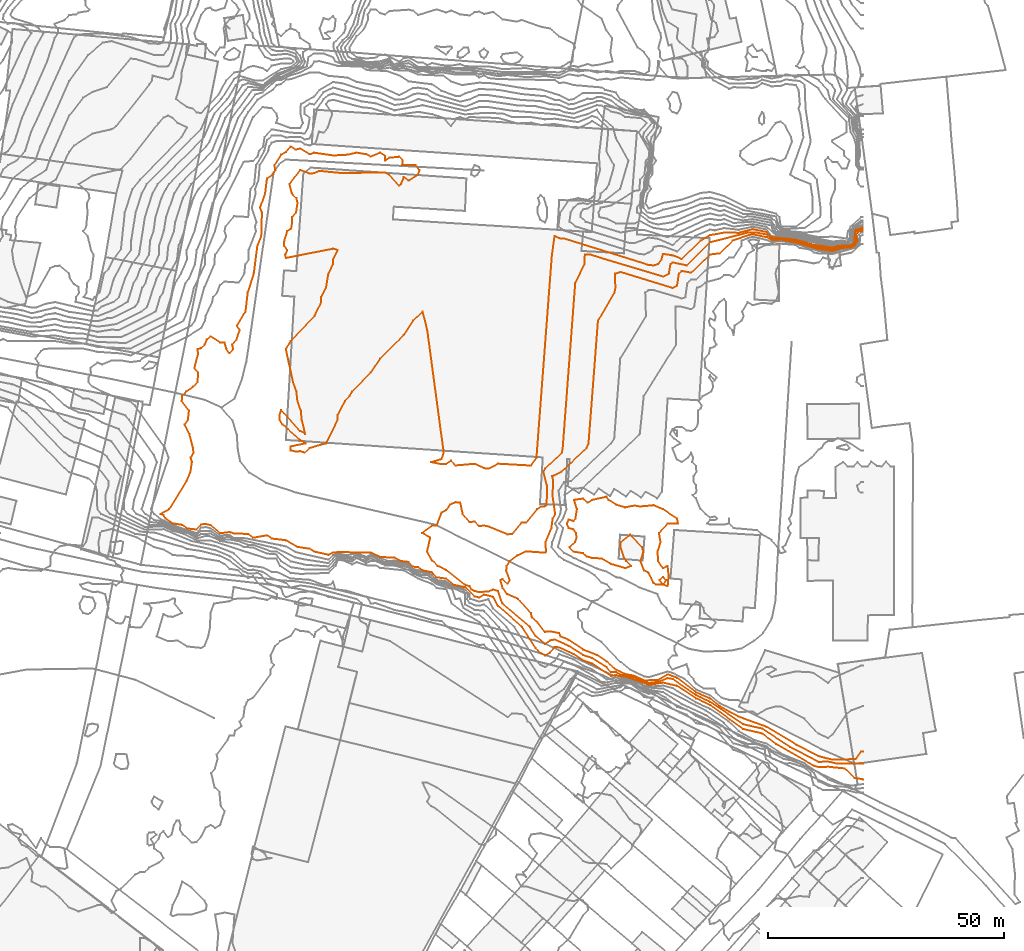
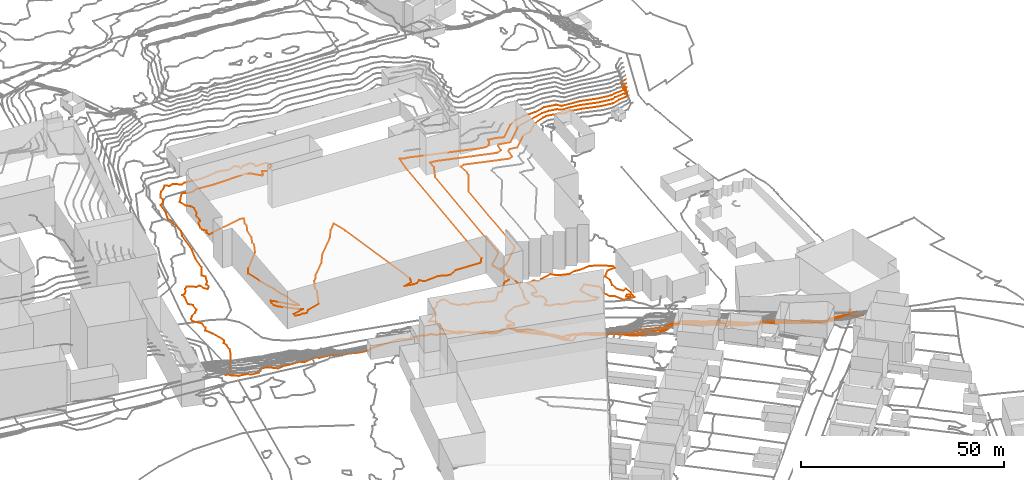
# Not in any storey, part 265 of 419: 4 proxies.
"""IFC2X3 model written with IfcOpenShell, lengths in metres."""

from ifc_helpers import new_model, entity, si_unit, frame, origin_with_axes, place, context, subcontext, project, element, save


model = new_model("IFC2X3")

# Units and contexts
model_context = context("Model", 3, precision=1e-05, world=origin_with_axes())
body_context = subcontext(model_context, "Body", "Model", "MODEL_VIEW")
ifc_project = project(units=[si_unit("AREAUNIT", "SQUARE_METRE"), si_unit("LENGTHUNIT", "METRE")], contexts=[model_context])

# Proxies
proxy_1_placement = place(None, frame((913.7110576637, 367.8976909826, 68.0), z_axis=(0.0, 0.0, 1.0), x_axis=(1.0, 0.0, 0.0)))
element("IfcBuildingElementProxy", 1, at=proxy_1_placement, Name="Contour 68.0 m", ObjectType="NOTDEFINED", context=body_context, shape_type="GeometricCurveSet", body=[
    entity("IfcGeometricCurveSet", [entity("IfcPolyline", [entity("IfcCartesianPoint", [21.3809627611, -13.3334181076, 0.0]), entity("IfcCartesianPoint", [21.5809932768, -11.0, 0.0]), entity("IfcCartesianPoint", [21.3809627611, -9.0000999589, 0.0]), entity("IfcCartesianPoint", [20.3809627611, -9.5000499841, 0.0]), entity("IfcCartesianPoint", [19.3809427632, -8.0, 0.0]), entity("IfcCartesianPoint", [19.2380744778, -6.0, 0.0]), entity("IfcCartesianPoint", [19.8809544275, -4.0, 0.0]), entity("IfcCartesianPoint", [19.5476506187, -2.0, 0.0]), entity("IfcCartesianPoint", [21.3809627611, 1.99983e-05, 0.0]), entity("IfcCartesianPoint", [23.5476506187, 0.0, 0.0]), entity("IfcCartesianPoint", [23.3809377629, 1.0, 0.0]), entity("IfcCartesianPoint", [20.3809484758, 3.0, 0.0]), entity("IfcCartesianPoint", [18.3809627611, 3.8461764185, 0.0]), entity("IfcCartesianPoint", [15.3809627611, 3.5833174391, 0.0]), entity("IfcCartesianPoint", [14.3809627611, 3.8000305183, 0.0]), entity("IfcCartesianPoint", [12.3809627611, 3.4117673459, 0.0]), entity("IfcCartesianPoint", [10.3809294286, 4.0, 0.0]), entity("IfcCartesianPoint", [8.8809377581, 5.0, 0.0]), entity("IfcCartesianPoint", [8.3809627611, 5.6665818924, 0.0]), entity("IfcCartesianPoint", [5.3809877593, 5.0, 0.0]), entity("IfcCartesianPoint", [4.3809627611, 4.39996948, 0.0]), entity("IfcCartesianPoint", [3.3809627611, 5.285667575, 0.0]), entity("IfcCartesianPoint", [1.5476506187, 5.0, 0.0]), entity("IfcCartesianPoint", [2.1309866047, 3.0, 0.0]), entity("IfcCartesianPoint", [1.792730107, 1.0, 0.0]), entity("IfcCartesianPoint", [1.3809627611, 0.4999928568, 0.0]), entity("IfcCartesianPoint", [0.3809627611, 0.8000305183, 0.0]), entity("IfcCartesianPoint", [0.0, 0.0, 0.0]), entity("IfcCartesianPoint", [0.3809627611, -0.9999875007, 0.0]), entity("IfcCartesianPoint", [1.3809627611, -1.25, 0.0]), entity("IfcCartesianPoint", [1.9434538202, -2.0, 0.0]), entity("IfcCartesianPoint", [2.0476124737, -3.0, 0.0]), entity("IfcCartesianPoint", [1.7142537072, -4.0, 0.0]), entity("IfcCartesianPoint", [0.5476506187, -5.0, 0.0]), entity("IfcCartesianPoint", [1.380979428, -6.0, 0.0]), entity("IfcCartesianPoint", [3.3809627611, -6.3333502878, 0.0]), entity("IfcCartesianPoint", [4.1501980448, -7.0, 0.0]), entity("IfcCartesianPoint", [5.3809627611, -7.3333502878, 0.0]), entity("IfcCartesianPoint", [7.3809627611, -7.4444350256, 0.0]), entity("IfcCartesianPoint", [9.3809627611, -8.6250238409, 0.0]), entity("IfcCartesianPoint", [12.3809627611, -9.4999900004, 0.0]), entity("IfcCartesianPoint", [13.6310104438, -9.0, 0.0]), entity("IfcCartesianPoint", [12.5809932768, -8.0, 0.0]), entity("IfcCartesianPoint", [12.047671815, -7.0, 0.0]), entity("IfcCartesianPoint", [11.3809377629, -5.0, 0.0]), entity("IfcCartesianPoint", [11.3809294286, -4.0, 0.0]), entity("IfcCartesianPoint", [13.3809627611, -2.3749761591, 0.0]), entity("IfcCartesianPoint", [15.9809475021, -5.0, 0.0]), entity("IfcCartesianPoint", [16.2271391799, -6.0, 0.0]), entity("IfcCartesianPoint", [15.6309627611, -8.0, 0.0]), entity("IfcCartesianPoint", [16.3809627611, -9.9999499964, 0.0]), entity("IfcCartesianPoint", [17.3809627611, -10.4999749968, 0.0]), entity("IfcCartesianPoint", [18.3809627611, -12.6665818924, 0.0]), entity("IfcCartesianPoint", [18.8810127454, -13.0, 0.0]), entity("IfcCartesianPoint", [20.3808628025, -13.0, 0.0]), entity("IfcCartesianPoint", [19.7143808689, -12.0, 0.0]), entity("IfcCartesianPoint", [20.3809627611, -11.3334181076, 0.0]), entity("IfcCartesianPoint", [21.0475446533, -12.0, 0.0]), entity("IfcCartesianPoint", [20.3810627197, -13.0, 0.0]), entity("IfcCartesianPoint", [21.3809627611, -13.3334181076, 0.0])])]),
])
proxy_2_placement = place(None, frame((899.5920329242, 355.8976909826, 71.0), z_axis=(0.0, 0.0, 1.0), x_axis=(1.0, 0.0, 0.0)))
element("IfcBuildingElementProxy", 2, at=proxy_2_placement, Name="Contour 71.0 m", ObjectType="NOTDEFINED", context=body_context, shape_type="GeometricCurveSet", body=[
    entity("IfcGeometricCurveSet", [entity("IfcPolyline", [entity("IfcCartesianPoint", [76.9999875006, 74.0961547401, 0.0]), entity("IfcCartesianPoint", [76.2391156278, 74.0, 0.0]), entity("IfcCartesianPoint", [75.4999875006, 73.4097211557, 0.0]), entity("IfcCartesianPoint", [75.7528950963, 72.0, 0.0]), entity("IfcCartesianPoint", [75.1992624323, 71.0, 0.0]), entity("IfcCartesianPoint", [74.4999875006, 70.5822512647, 0.0]), entity("IfcCartesianPoint", [72.4999875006, 70.4490862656, 0.0]), entity("IfcCartesianPoint", [70.4999875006, 69.8289480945, 0.0]), entity("IfcCartesianPoint", [67.4999875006, 70.2078858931, 0.0]), entity("IfcCartesianPoint", [62.4999875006, 71.6601123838, 0.0]), entity("IfcCartesianPoint", [59.4999875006, 72.1995194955, 0.0]), entity("IfcCartesianPoint", [57.4999875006, 72.1189022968, 0.0]), entity("IfcCartesianPoint", [56.4999875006, 72.7283235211, 0.0]), entity("IfcCartesianPoint", [53.4999875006, 73.3387080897, 0.0]), entity("IfcCartesianPoint", [52.4999875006, 73.1329496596, 0.0]), entity("IfcCartesianPoint", [49.3205008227, 72.0, 0.0]), entity("IfcCartesianPoint", [46.4999875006, 69.3157926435, 0.0]), entity("IfcCartesianPoint", [44.4999875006, 69.0555473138, 0.0]), entity("IfcCartesianPoint", [40.4999875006, 65.1891869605, 0.0]), entity("IfcCartesianPoint", [38.4999875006, 65.5740685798, 0.0]), entity("IfcCartesianPoint", [37.8799923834, 65.0, 0.0]), entity("IfcCartesianPoint", [37.4999875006, 62.4499885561, 0.0]), entity("IfcCartesianPoint", [36.4999875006, 61.949154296, 0.0]), entity("IfcCartesianPoint", [25.4999875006, 65.333337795, 0.0]), entity("IfcCartesianPoint", [24.312490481, 65.0, 0.0]), entity("IfcCartesianPoint", [24.4285433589, 62.0, 0.0]), entity("IfcCartesianPoint", [24.1999951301, 61.0, 0.0]), entity("IfcCartesianPoint", [20.7142654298, 55.0, 0.0]), entity("IfcCartesianPoint", [18.7105159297, 29.0, 0.0]), entity("IfcCartesianPoint", [18.2916462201, 28.0, 0.0]), entity("IfcCartesianPoint", [12.9799984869, 23.0, 0.0]), entity("IfcCartesianPoint", [11.0097934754, 22.0, 0.0]), entity("IfcCartesianPoint", [11.2360956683, 21.0, 0.0]), entity("IfcCartesianPoint", [11.05843189, 18.0, 0.0]), entity("IfcCartesianPoint", [11.6382832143, 14.0, 0.0]), entity("IfcCartesianPoint", [11.1063685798, 13.0, 0.0]), entity("IfcCartesianPoint", [10.8157764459, 11.0, 0.0]), entity("IfcCartesianPoint", [9.5434638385, 8.0, 0.0]), entity("IfcCartesianPoint", [9.7105159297, 6.0, 0.0]), entity("IfcCartesianPoint", [9.4999875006, 5.7777730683, 0.0]), entity("IfcCartesianPoint", [5.4999875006, 6.0714441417, 0.0]), entity("IfcCartesianPoint", [3.4999875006, 5.2000305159, 0.0]), entity("IfcCartesianPoint", [1.9285433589, 4.0, 0.0]), entity("IfcCartesianPoint", [1.3570992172, 3.0, 0.0]), entity("IfcCartesianPoint", [1.2500113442, 2.0, 0.0]), entity("IfcCartesianPoint", [1.9999937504, 0.0, 0.0]), entity("IfcCartesianPoint", [1.4999875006, -0.8000305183, 0.0]), entity("IfcCartesianPoint", [0.4999875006, 0.2222269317, 0.0]), entity("IfcCartesianPoint", [0.0, 0.0, 0.0]), entity("IfcCartesianPoint", [0.4999875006, -1.6665818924, 0.0]), entity("IfcCartesianPoint", [1.4411534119, -3.0, 0.0]), entity("IfcCartesianPoint", [3.7631580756, -4.0, 0.0]), entity("IfcCartesianPoint", [6.4999922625, -7.0, 0.0]), entity("IfcCartesianPoint", [6.6874845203, -8.0, 0.0]), entity("IfcCartesianPoint", [7.9285433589, -9.0, 0.0]), entity("IfcCartesianPoint", [9.4642654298, -11.0, 0.0]), entity("IfcCartesianPoint", [10.4999875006, -10.9000152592, 0.0]), entity("IfcCartesianPoint", [12.4999875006, -11.2666700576, 0.0]), entity("IfcCartesianPoint", [12.7972842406, -12.0, 0.0]), entity("IfcCartesianPoint", [14.4999875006, -12.7017574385, 0.0]), entity("IfcCartesianPoint", [17.4999875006, -14.736108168, 0.0]), entity("IfcCartesianPoint", [20.4999875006, -15.9444432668, 0.0]), entity("IfcCartesianPoint", [22.4999875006, -17.2682942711, 0.0]), entity("IfcCartesianPoint", [24.4374860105, -19.0, 0.0]), entity("IfcCartesianPoint", [26.5795328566, -20.0, 0.0]), entity("IfcCartesianPoint", [28.4999875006, -20.3508070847, 0.0]), entity("IfcCartesianPoint", [30.4999875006, -21.3258430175, 0.0]), entity("IfcCartesianPoint", [33.4999875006, -21.189872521, 0.0]), entity("IfcCartesianPoint", [35.4999875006, -20.0325209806, 0.0]), entity("IfcCartesianPoint", [37.4999875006, -20.7575750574, 0.0]), entity("IfcCartesianPoint", [41.4999875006, -23.8457162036, 0.0]), entity("IfcCartesianPoint", [44.4999875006, -25.1438827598, 0.0]), entity("IfcCartesianPoint", [46.4999875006, -26.778482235, 0.0]), entity("IfcCartesianPoint", [48.4999875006, -27.9290320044, 0.0]), entity("IfcCartesianPoint", [50.4999875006, -28.990474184, 0.0]), entity("IfcCartesianPoint", [56.4999875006, -31.1619037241, 0.0]), entity("IfcCartesianPoint", [62.8953317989, -35.0, 0.0]), entity("IfcCartesianPoint", [67.4999875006, -37.3928574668, 0.0]), entity("IfcCartesianPoint", [70.4999875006, -38.1515150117, 0.0]), entity("IfcCartesianPoint", [75.4090594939, -38.0, 0.0]), entity("IfcCartesianPoint", [76.4999875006, -36.3749761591, 0.0]), entity("IfcCartesianPoint", [76.9999875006, -36.3749761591, 0.0])])]),
])
proxy_3_placement = place(None, frame((882.9491321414, 365.8976909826, 72.0), z_axis=(0.0, 0.0, 1.0), x_axis=(1.0, 0.0, 0.0)))
element("IfcBuildingElementProxy", 3, at=proxy_3_placement, Name="Contour 72.0 m", ObjectType="NOTDEFINED", context=body_context, shape_type="GeometricCurveSet", body=[
    entity("IfcGeometricCurveSet", [entity("IfcPolyline", [entity("IfcCartesianPoint", [93.6428882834, 64.4166672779, 0.0]), entity("IfcCartesianPoint", [92.1089512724, 64.0, 0.0]), entity("IfcCartesianPoint", [91.879643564, 63.0, 0.0]), entity("IfcCartesianPoint", [92.1066773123, 62.0, 0.0]), entity("IfcCartesianPoint", [91.4798446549, 61.0, 0.0]), entity("IfcCartesianPoint", [88.1428882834, 60.5623094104, 0.0]), entity("IfcCartesianPoint", [87.1428882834, 60.1584166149, 0.0]), entity("IfcCartesianPoint", [83.1428882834, 60.7792208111, 0.0]), entity("IfcCartesianPoint", [79.1428882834, 61.941011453, 0.0]), entity("IfcCartesianPoint", [76.1428882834, 62.4399038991, 0.0]), entity("IfcCartesianPoint", [74.1428882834, 62.423780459, 0.0]), entity("IfcCartesianPoint", [73.1428882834, 63.2896165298, 0.0]), entity("IfcCartesianPoint", [71.1428882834, 63.6844931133, 0.0]), entity("IfcCartesianPoint", [69.1428882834, 63.7109832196, 0.0]), entity("IfcCartesianPoint", [61.1428882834, 61.6585347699, 0.0]), entity("IfcCartesianPoint", [56.1428882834, 56.7500036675, 0.0]), entity("IfcCartesianPoint", [53.1428882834, 57.3684196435, 0.0]), entity("IfcCartesianPoint", [52.7311270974, 57.0, 0.0]), entity("IfcCartesianPoint", [52.392883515, 55.0, 0.0]), entity("IfcCartesianPoint", [51.1428882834, 54.371422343, 0.0]), entity("IfcCartesianPoint", [35.7428882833, 59.0, 0.0]), entity("IfcCartesianPoint", [34.5803972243, 59.0, 0.0]), entity("IfcCartesianPoint", [34.4762216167, 57.0, 0.0]), entity("IfcCartesianPoint", [32.5317748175, 53.0, 0.0]), entity("IfcCartesianPoint", [29.8797177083, 18.0, 0.0]), entity("IfcCartesianPoint", [29.6883522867, 17.0, 0.0]), entity("IfcCartesianPoint", [26.1428882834, 13.666666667, 0.0]), entity("IfcCartesianPoint", [25.7880491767, 13.0, 0.0]), entity("IfcCartesianPoint", [26.5206645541, 10.0, 0.0]), entity("IfcCartesianPoint", [26.4928854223, 6.0, 0.0]), entity("IfcCartesianPoint", [26.1428882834, 5.641026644, 0.0]), entity("IfcCartesianPoint", [25.1428882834, 5.5405394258, 0.0]), entity("IfcCartesianPoint", [24.4532276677, 5.0, 0.0]), entity("IfcCartesianPoint", [22.1428882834, 2.1388971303, 0.0]), entity("IfcCartesianPoint", [21.1428882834, 2.1999976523, 0.0]), entity("IfcCartesianPoint", [19.1428882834, -0.2051332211, 0.0]), entity("IfcCartesianPoint", [18.1428882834, -0.3249980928, 0.0]), entity("IfcCartesianPoint", [14.1428882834, 1.3157926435, 0.0]), entity("IfcCartesianPoint", [13.1428882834, 1.5714259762, 0.0]), entity("IfcCartesianPoint", [12.1428882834, 1.4000000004, 0.0]), entity("IfcCartesianPoint", [11.1428882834, 2.3958356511, 0.0]), entity("IfcCartesianPoint", [10.1428882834, 2.2903130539, 0.0]), entity("IfcCartesianPoint", [8.662877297, 4.0, 0.0]), entity("IfcCartesianPoint", [8.1428882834, 6.39996948, 0.0]), entity("IfcCartesianPoint", [7.1428882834, 6.4999916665, 0.0]), entity("IfcCartesianPoint", [5.9428577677, 6.0, 0.0]), entity("IfcCartesianPoint", [5.1428882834, 4.7999694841, 0.0]), entity("IfcCartesianPoint", [4.1428882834, 4.3334181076, 0.0]), entity("IfcCartesianPoint", [3.1428882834, 1.5714441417, 0.0]), entity("IfcCartesianPoint", [2.1428882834, 1.4999875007, 0.0]), entity("IfcCartesianPoint", [0.0, 0.0, 0.0]), entity("IfcCartesianPoint", [1.7428730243, -1.0, 0.0]), entity("IfcCartesianPoint", [1.0928787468, -4.0, 0.0]), entity("IfcCartesianPoint", [2.1428882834, -5.8571117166, 0.0]), entity("IfcCartesianPoint", [3.330385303, -7.0, 0.0]), entity("IfcCartesianPoint", [5.1428882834, -7.8846210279, 0.0]), entity("IfcCartesianPoint", [9.0000544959, -11.0, 0.0]), entity("IfcCartesianPoint", [10.1428882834, -11.3333192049, 0.0]), entity("IfcCartesianPoint", [10.5065309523, -12.0, 0.0]), entity("IfcCartesianPoint", [11.1428882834, -12.3387067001, 0.0]), entity("IfcCartesianPoint", [12.1428882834, -12.5882388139, 0.0]), entity("IfcCartesianPoint", [14.1428882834, -12.4070798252, 0.0]), entity("IfcCartesianPoint", [15.1428882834, -12.0270225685, 0.0]), entity("IfcCartesianPoint", [16.1428882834, -12.3593763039, 0.0]), entity("IfcCartesianPoint", [17.063518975, -15.0, 0.0]), entity("IfcCartesianPoint", [22.9009514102, -20.0, 0.0]), entity("IfcCartesianPoint", [24.1428882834, -21.897433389, 0.0]), entity("IfcCartesianPoint", [26.1428882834, -23.5853663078, 0.0]), entity("IfcCartesianPoint", [27.1428882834, -22.833333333, 0.0]), entity("IfcCartesianPoint", [28.1428882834, -22.6463402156, 0.0]), entity("IfcCartesianPoint", [31.1428882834, -23.9764744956, 0.0]), entity("IfcCartesianPoint", [34.1428882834, -25.9204546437, 0.0]), entity("IfcCartesianPoint", [36.1428882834, -26.5747108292, 0.0]), entity("IfcCartesianPoint", [39.1428882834, -28.5128232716, 0.0]), entity("IfcCartesianPoint", [40.1428882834, -29.5633831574, 0.0]), entity("IfcCartesianPoint", [41.1428882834, -29.5810058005, 0.0]), entity("IfcCartesianPoint", [42.1428882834, -30.0888875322, 0.0]), entity("IfcCartesianPoint", [45.1428882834, -30.7540323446, 0.0]), entity("IfcCartesianPoint", [47.1428882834, -31.7003740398, 0.0]), entity("IfcCartesianPoint", [48.1428882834, -31.8571428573, 0.0]), entity("IfcCartesianPoint", [50.1428882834, -31.6118143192, 0.0]), entity("IfcCartesianPoint", [52.1428882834, -30.8455268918, 0.0]), entity("IfcCartesianPoint", [53.1592852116, -31.0, 0.0]), entity("IfcCartesianPoint", [58.1428882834, -34.4534180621, 0.0]), entity("IfcCartesianPoint", [61.1428882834, -35.8633075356, 0.0]), entity("IfcCartesianPoint", [68.1428882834, -40.6195661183, 0.0]), entity("IfcCartesianPoint", [72.1428882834, -41.5428580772, 0.0]), entity("IfcCartesianPoint", [78.1428882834, -45.4457854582, 0.0]), entity("IfcCartesianPoint", [84.1428882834, -48.6049374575, 0.0]), entity("IfcCartesianPoint", [86.1428882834, -48.534246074, 0.0]), entity("IfcCartesianPoint", [88.1428882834, -48.9999992, 0.0]), entity("IfcCartesianPoint", [93.6428882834, -48.9886339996, 0.0])])]),
])
proxy_4_placement = place(None, frame((827.4556630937, 369.8976909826, 73.0), z_axis=(0.0, 0.0, 1.0), x_axis=(1.0, 0.0, 0.0)))
element("IfcBuildingElementProxy", 4, at=proxy_4_placement, Name="Contour 73.0 m", ObjectType="NOTDEFINED", context=body_context, shape_type="GeometricCurveSet", body=[
    entity("IfcGeometricCurveSet", [entity("IfcPolyline", [entity("IfcCartesianPoint", [149.1363573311, 60.7371798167, 0.0]), entity("IfcCartesianPoint", [147.6363573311, 60.3221293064, 0.0]), entity("IfcCartesianPoint", [147.3761758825, 60.0, 0.0]), entity("IfcCartesianPoint", [147.3215945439, 58.0, 0.0]), entity("IfcCartesianPoint", [146.6363573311, 57.0276678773, 0.0]), entity("IfcCartesianPoint", [143.6363573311, 56.8662606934, 0.0]), entity("IfcCartesianPoint", [142.6363573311, 56.4884489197, 0.0]), entity("IfcCartesianPoint", [138.6363573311, 57.1151078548, 0.0]), entity("IfcCartesianPoint", [134.6363573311, 58.228324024, 0.0]), entity("IfcCartesianPoint", [129.6363573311, 58.7286586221, 0.0]), entity("IfcCartesianPoint", [128.6363573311, 59.8360640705, 0.0]), entity("IfcCartesianPoint", [125.6363573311, 60.4117639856, 0.0]), entity("IfcCartesianPoint", [122.6363573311, 59.6589608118, 0.0]), entity("IfcCartesianPoint", [119.6363573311, 59.7047629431, 0.0]), entity("IfcCartesianPoint", [116.6363573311, 59.1744202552, 0.0]), entity("IfcCartesianPoint", [114.587584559, 58.0, 0.0]), entity("IfcCartesianPoint", [110.6363573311, 54.105266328, 0.0]), entity("IfcCartesianPoint", [108.6363573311, 54.8888865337, 0.0]), entity("IfcCartesianPoint", [106.6363573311, 55.1666645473, 0.0]), entity("IfcCartesianPoint", [106.2954466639, 54.0, 0.0]), entity("IfcCartesianPoint", [105.6363573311, 53.0645058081, 0.0]), entity("IfcCartesianPoint", [104.6363573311, 52.7500047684, 0.0]), entity("IfcCartesianPoint", [103.6363573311, 52.8166651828, 0.0]), entity("IfcCartesianPoint", [85.6363573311, 58.4426225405, 0.0]), entity("IfcCartesianPoint", [84.6363573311, 58.4999966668, 0.0]), entity("IfcCartesianPoint", [83.6363573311, 58.9999750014, 0.0]), entity("IfcCartesianPoint", [83.0808111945, 55.0, 0.0]), entity("IfcCartesianPoint", [79.8030169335, 12.0, 0.0]), entity("IfcCartesianPoint", [78.6363573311, 10.2727146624, 0.0]), entity("IfcCartesianPoint", [71.6363573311, 10.666666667, 0.0]), entity("IfcCartesianPoint", [69.6363573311, 9.6060620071, 0.0]), entity("IfcCartesianPoint", [68.6363573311, 9.7272790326, 0.0]), entity("IfcCartesianPoint", [66.6363573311, 10.6470693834, 0.0]), entity("IfcCartesianPoint", [62.6363573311, 10.2999923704, 0.0]), entity("IfcCartesianPoint", [61.6363573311, 11.3749761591, 0.0]), entity("IfcCartesianPoint", [60.6363573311, 10.6206887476, 0.0]), entity("IfcCartesianPoint", [59.6363573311, 10.5555649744, 0.0]), entity("IfcCartesianPoint", [57.414163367, 11.0, 0.0]), entity("IfcCartesianPoint", [59.6363573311, 11.6667090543, 0.0]), entity("IfcCartesianPoint", [60.1363406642, 13.0, 0.0]), entity("IfcCartesianPoint", [56.6363573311, 38.9999000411, 0.0]), entity("IfcCartesianPoint", [55.6363573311, 42.9999000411, 0.0]), entity("IfcCartesianPoint", [53.6363573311, 40.9999000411, 0.0]), entity("IfcCartesianPoint", [51.6364073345, 38.0, 0.0]), entity("IfcCartesianPoint", [46.6363573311, 32.9999000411, 0.0]), entity("IfcCartesianPoint", [44.6364073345, 30.0, 0.0]), entity("IfcCartesianPoint", [40.6363573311, 25.9999000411, 0.0]), entity("IfcCartesianPoint", [40.1364073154, 25.0, 0.0]), entity("IfcCartesianPoint", [39.1364073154, 24.0, 0.0]), entity("IfcCartesianPoint", [37.6364572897, 21.0, 0.0]), entity("IfcCartesianPoint", [37.6364073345, 20.0, 0.0]), entity("IfcCartesianPoint", [35.1364073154, 15.0, 0.0]), entity("IfcCartesianPoint", [31.6363573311, 13.9999833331, 0.0]), entity("IfcCartesianPoint", [30.6363573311, 12.9999000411, 0.0]), entity("IfcCartesianPoint", [29.6363573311, 13.3125119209, 0.0]), entity("IfcCartesianPoint", [28.6363573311, 13.2499761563, 0.0]), entity("IfcCartesianPoint", [27.6363573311, 13.4999500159, 0.0]), entity("IfcCartesianPoint", [27.6363573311, 14.3334181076, 0.0]), entity("IfcCartesianPoint", [30.8030451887, 15.0, 0.0]), entity("IfcCartesianPoint", [29.6363573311, 15.666666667, 0.0]), entity("IfcCartesianPoint", [25.9030273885, 19.0, 0.0]), entity("IfcCartesianPoint", [25.2902102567, 20.0, 0.0]), entity("IfcCartesianPoint", [25.2613632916, 21.0, 0.0]), entity("IfcCartesianPoint", [25.6363573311, 22.0909280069, 0.0]), entity("IfcCartesianPoint", [29.6363573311, 17.6363573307, 0.0]), entity("IfcCartesianPoint", [30.7474872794, 17.0, 0.0]), entity("IfcCartesianPoint", [29.9892879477, 20.0, 0.0]), entity("IfcCartesianPoint", [29.8030169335, 22.0, 0.0]), entity("IfcCartesianPoint", [29.0863458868, 24.0, 0.0]), entity("IfcCartesianPoint", [28.8671220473, 26.0, 0.0]), entity("IfcCartesianPoint", [28.1581007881, 28.0, 0.0]), entity("IfcCartesianPoint", [26.6363501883, 35.0, 0.0]), entity("IfcCartesianPoint", [27.6363573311, 36.7083320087, 0.0]), entity("IfcCartesianPoint", [32.6780319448, 42.0, 0.0]), entity("IfcCartesianPoint", [34.1363073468, 45.0, 0.0]), entity("IfcCartesianPoint", [34.1363073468, 46.0, 0.0]), entity("IfcCartesianPoint", [35.1363073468, 48.0, 0.0]), entity("IfcCartesianPoint", [35.6363073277, 51.0, 0.0]), entity("IfcCartesianPoint", [36.6363073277, 53.0, 0.0]), entity("IfcCartesianPoint", [36.6363073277, 54.0, 0.0]), entity("IfcCartesianPoint", [37.6363073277, 56.0, 0.0]), entity("IfcCartesianPoint", [36.6363573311, 56.285667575, 0.0]), entity("IfcCartesianPoint", [26.6363573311, 54.3332909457, 0.0]), entity("IfcCartesianPoint", [26.48250892, 55.0, 0.0]), entity("IfcCartesianPoint", [26.9141515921, 56.0, 0.0]), entity("IfcCartesianPoint", [26.2554014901, 57.0, 0.0]), entity("IfcCartesianPoint", [26.2959248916, 58.0, 0.0]), entity("IfcCartesianPoint", [26.922024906, 60.0, 0.0]), entity("IfcCartesianPoint", [27.6363573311, 60.5000099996, 0.0]), entity("IfcCartesianPoint", [27.8537587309, 61.0, 0.0]), entity("IfcCartesianPoint", [27.9892879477, 63.0, 0.0]), entity("IfcCartesianPoint", [28.7727146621, 64.0, 0.0]), entity("IfcCartesianPoint", [29.1051125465, 66.0, 0.0]), entity("IfcCartesianPoint", [28.874459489, 67.0, 0.0]), entity("IfcCartesianPoint", [27.9090719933, 68.0, 0.0]), entity("IfcCartesianPoint", [27.3863811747, 70.0, 0.0]), entity("IfcCartesianPoint", [29.6363573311, 73.0000083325, 0.0]), entity("IfcCartesianPoint", [31.6363573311, 72.2221939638, 0.0]), entity("IfcCartesianPoint", [32.6363573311, 72.3125119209, 0.0]), entity("IfcCartesianPoint", [33.6363573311, 72.8000305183, 0.0]), entity("IfcCartesianPoint", [38.6363573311, 72.3157852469, 0.0]), entity("IfcCartesianPoint", [47.6363573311, 72.5000055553, 0.0]), entity("IfcCartesianPoint", [48.5363344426, 72.0, 0.0]), entity("IfcCartesianPoint", [50.6363573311, 69.7272853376, 0.0]), entity("IfcCartesianPoint", [51.0649131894, 70.0, 0.0]), entity("IfcCartesianPoint", [51.6363573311, 71.5000250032, 0.0]), entity("IfcCartesianPoint", [52.6363573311, 70.7499523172, 0.0]), entity("IfcCartesianPoint", [54.6363239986, 72.0, 0.0]), entity("IfcCartesianPoint", [54.9697754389, 73.0, 0.0]), entity("IfcCartesianPoint", [54.1363073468, 74.0, 0.0]), entity("IfcCartesianPoint", [51.3029392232, 74.0, 0.0]), entity("IfcCartesianPoint", [51.4363268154, 75.0, 0.0]), entity("IfcCartesianPoint", [50.6363573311, 75.7999694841, 0.0]), entity("IfcCartesianPoint", [48.6363573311, 75.5999847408, 0.0]), entity("IfcCartesianPoint", [47.6362573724, 75.0, 0.0]), entity("IfcCartesianPoint", [47.6363073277, 76.0, 0.0]), entity("IfcCartesianPoint", [46.6363573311, 76.6665818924, 0.0]), entity("IfcCartesianPoint", [44.6363573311, 75.8333121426, 0.0]), entity("IfcCartesianPoint", [43.6363573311, 76.333333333, 0.0]), entity("IfcCartesianPoint", [41.6363573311, 76.6667090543, 0.0]), entity("IfcCartesianPoint", [39.6363573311, 76.2222269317, 0.0]), entity("IfcCartesianPoint", [36.6363573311, 76.0689555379, 0.0]), entity("IfcCartesianPoint", [32.6363573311, 76.6470693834, 0.0]), entity("IfcCartesianPoint", [31.6363573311, 76.333333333, 0.0]), entity("IfcCartesianPoint", [29.6363573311, 77.5384705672, 0.0]), entity("IfcCartesianPoint", [28.6363573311, 77.2999923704, 0.0]), entity("IfcCartesianPoint", [27.6363573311, 77.9999833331, 0.0]), entity("IfcCartesianPoint", [26.6363573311, 76.8333121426, 0.0]), entity("IfcCartesianPoint", [25.6363573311, 76.2500476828, 0.0]), entity("IfcCartesianPoint", [24.1817866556, 74.0, 0.0]), entity("IfcCartesianPoint", [24.3863573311, 73.0, 0.0]), entity("IfcCartesianPoint", [23.7613811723, 72.0, 0.0]), entity("IfcCartesianPoint", [22.6363573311, 71.2221939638, 0.0]), entity("IfcCartesianPoint", [22.2196871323, 68.0, 0.0]), entity("IfcCartesianPoint", [21.1524895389, 65.0, 0.0]), entity("IfcCartesianPoint", [21.5594372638, 64.0, 0.0]), entity("IfcCartesianPoint", [21.4082918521, 59.0, 0.0]), entity("IfcCartesianPoint", [20.5909043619, 57.0, 0.0]), entity("IfcCartesianPoint", [19.8238498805, 51.0, 0.0]), entity("IfcCartesianPoint", [18.547467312, 47.0, 0.0]), entity("IfcCartesianPoint", [18.05145493, 43.0, 0.0]), entity("IfcCartesianPoint", [16.2553945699, 40.0, 0.0]), entity("IfcCartesianPoint", [16.8298993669, 39.0, 0.0]), entity("IfcCartesianPoint", [16.1125426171, 37.0, 0.0]), entity("IfcCartesianPoint", [15.236342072, 36.0, 0.0]), entity("IfcCartesianPoint", [15.4545580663, 35.0, 0.0]), entity("IfcCartesianPoint", [14.6363573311, 34.1000228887, 0.0]), entity("IfcCartesianPoint", [13.9935235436, 35.0, 0.0]), entity("IfcCartesianPoint", [13.6363573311, 36.39996948, 0.0]), entity("IfcCartesianPoint", [12.6363573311, 36.39996948, 0.0]), entity("IfcCartesianPoint", [10.6363573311, 37.6874880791, 0.0]), entity("IfcCartesianPoint", [9.8506352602, 37.0, 0.0]), entity("IfcCartesianPoint", [9.4258289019, 36.0, 0.0]), entity("IfcCartesianPoint", [8.6363573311, 35.166659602, 0.0]), entity("IfcCartesianPoint", [7.8864050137, 35.0, 0.0]), entity("IfcCartesianPoint", [8.0, 34.0, 0.0]), entity("IfcCartesianPoint", [7.2078014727, 31.0, 0.0]), entity("IfcCartesianPoint", [8.0363268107, 30.0, 0.0]), entity("IfcCartesianPoint", [7.8585512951, 28.0, 0.0]), entity("IfcCartesianPoint", [6.9696482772, 27.0, 0.0]), entity("IfcCartesianPoint", [5.4363675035, 26.0, 0.0]), entity("IfcCartesianPoint", [4.636377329, 25.0, 0.0]), entity("IfcCartesianPoint", [4.5252273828, 24.0, 0.0]), entity("IfcCartesianPoint", [6.053039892, 22.0, 0.0]), entity("IfcCartesianPoint", [5.8585512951, 20.0, 0.0]), entity("IfcCartesianPoint", [5.1696974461, 19.0, 0.0]), entity("IfcCartesianPoint", [6.1515004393, 17.0, 0.0]), entity("IfcCartesianPoint", [6.9163561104, 14.0, 0.0]), entity("IfcCartesianPoint", [7.0363512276, 13.0, 0.0]), entity("IfcCartesianPoint", [6.4488603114, 12.0, 0.0]), entity("IfcCartesianPoint", [6.6720794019, 11.0, 0.0]), entity("IfcCartesianPoint", [6.3863573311, 9.0, 0.0]), entity("IfcCartesianPoint", [5.5454293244, 7.0, 0.0]), entity("IfcCartesianPoint", [1.8506352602, 1.0, 0.0]), entity("IfcCartesianPoint", [0.0, 0.0, 0.0]), entity("IfcCartesianPoint", [0.6363573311, -0.2000000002, 0.0]), entity("IfcCartesianPoint", [1.1454502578, -1.0, 0.0]), entity("IfcCartesianPoint", [2.6291094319, -2.0, 0.0]), entity("IfcCartesianPoint", [4.6363573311, -2.297521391, 0.0]), entity("IfcCartesianPoint", [5.6363573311, -3.0740740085, 0.0]), entity("IfcCartesianPoint", [7.6363573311, -3.2935786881, 0.0]), entity("IfcCartesianPoint", [8.6363573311, -2.2152768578, 0.0]), entity("IfcCartesianPoint", [9.6363573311, -2.1020417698, 0.0]), entity("IfcCartesianPoint", [10.6363573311, -2.3825506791, 0.0]), entity("IfcCartesianPoint", [12.6363573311, -4.0829261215, 0.0]), entity("IfcCartesianPoint", [14.6363573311, -3.8461598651, 0.0]), entity("IfcCartesianPoint", [15.6363573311, -4.1323489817, 0.0]), entity("IfcCartesianPoint", [18.6363573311, -4.2471925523, 0.0]), entity("IfcCartesianPoint", [19.6363573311, -5.0414517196, 0.0]), entity("IfcCartesianPoint", [22.6363573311, -4.524589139, 0.0]), entity("IfcCartesianPoint", [23.6363573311, -5.2127621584, 0.0]), entity("IfcCartesianPoint", [26.6363573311, -5.5833359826, 0.0]), entity("IfcCartesianPoint", [29.0763597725, -7.0, 0.0]), entity("IfcCartesianPoint", [31.6363573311, -7.3829783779, 0.0]), entity("IfcCartesianPoint", [32.7272853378, -8.0, 0.0]), entity("IfcCartesianPoint", [35.6363573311, -8.6578994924, 0.0]), entity("IfcCartesianPoint", [36.6363573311, -8.1818177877, 0.0]), entity("IfcCartesianPoint", [37.6363573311, -8.1123917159, 0.0]), entity("IfcCartesianPoint", [44.6363573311, -8.1547618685, 0.0]), entity("IfcCartesianPoint", [46.6363573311, -9.1242240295, 0.0]), entity("IfcCartesianPoint", [49.6363573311, -9.2865862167, 0.0]), entity("IfcCartesianPoint", [51.0363614, -10.0, 0.0]), entity("IfcCartesianPoint", [52.6363573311, -10.1714295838, 0.0]), entity("IfcCartesianPoint", [53.6363573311, -11.1904770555, 0.0]), entity("IfcCartesianPoint", [54.6363573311, -11.2875835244, 0.0]), entity("IfcCartesianPoint", [55.718329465, -12.0, 0.0]), entity("IfcCartesianPoint", [57.6363573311, -12.3742341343, 0.0]), entity("IfcCartesianPoint", [58.6363573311, -13.4342117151, 0.0]), entity("IfcCartesianPoint", [60.6363573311, -13.7358495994, 0.0]), entity("IfcCartesianPoint", [62.1428497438, -15.0, 0.0]), entity("IfcCartesianPoint", [64.6363573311, -15.5483873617, 0.0]), entity("IfcCartesianPoint", [66.6363573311, -17.5042711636, 0.0]), entity("IfcCartesianPoint", [67.6363573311, -17.6991175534, 0.0]), entity("IfcCartesianPoint", [68.6363573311, -17.1219494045, 0.0]), entity("IfcCartesianPoint", [70.6363573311, -17.5714285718, 0.0]), entity("IfcCartesianPoint", [71.6363573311, -19.51219308, 0.0]), entity("IfcCartesianPoint", [76.7675077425, -24.0, 0.0]), entity("IfcCartesianPoint", [79.6363573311, -28.410258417, 0.0]), entity("IfcCartesianPoint", [80.6363573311, -29.4871865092, 0.0]), entity("IfcCartesianPoint", [81.6363573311, -30.0243952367, 0.0]), entity("IfcCartesianPoint", [82.6363573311, -29.3902493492, 0.0]), entity("IfcCartesianPoint", [83.6363573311, -28.2424284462, 0.0]), entity("IfcCartesianPoint", [84.6363573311, -28.3086429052, 0.0]), entity("IfcCartesianPoint", [87.6363573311, -29.7303392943, 0.0]), entity("IfcCartesianPoint", [89.6363573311, -31.0454557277, 0.0]), entity("IfcCartesianPoint", [91.6363573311, -31.75, 0.0]), entity("IfcCartesianPoint", [95.6363573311, -34.3854760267, 0.0]), entity("IfcCartesianPoint", [96.6363573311, -34.1396647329, 0.0]), entity("IfcCartesianPoint", [97.6363573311, -34.5333319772, 0.0]), entity("IfcCartesianPoint", [98.6363573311, -34.4837096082, 0.0]), entity("IfcCartesianPoint", [103.6363573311, -36.2585555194, 0.0]), entity("IfcCartesianPoint", [106.6363573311, -35.7884610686, 0.0]), entity("IfcCartesianPoint", [109.6363573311, -36.4712670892, 0.0]), entity("IfcCartesianPoint", [113.6363573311, -39.1081105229, 0.0]), entity("IfcCartesianPoint", [116.6363573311, -40.5399983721, 0.0]), entity("IfcCartesianPoint", [123.6363573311, -45.6310701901, 0.0]), entity("IfcCartesianPoint", [127.6363573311, -46.5625014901, 0.0]), entity("IfcCartesianPoint", [130.6363573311, -48.8160883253, 0.0]), entity("IfcCartesianPoint", [138.6363573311, -53.4193564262, 0.0]), entity("IfcCartesianPoint", [139.6363573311, -53.7234027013, 0.0]), entity("IfcCartesianPoint", [141.6363573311, -53.6274477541, 0.0]), entity("IfcCartesianPoint", [145.1626794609, -54.0, 0.0]), entity("IfcCartesianPoint", [147.3181786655, -56.0, 0.0]), entity("IfcCartesianPoint", [149.1363573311, -56.3085108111, 0.0])])]),
])

save(model, "model.ifc")
